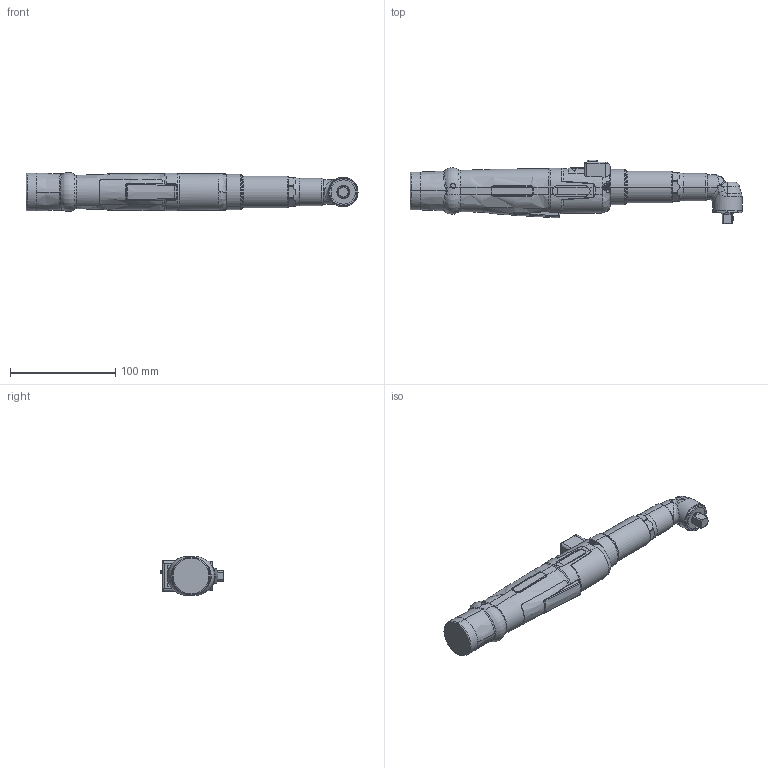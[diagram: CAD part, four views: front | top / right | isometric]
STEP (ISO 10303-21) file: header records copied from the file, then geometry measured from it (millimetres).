
FILE_DESCRIPTION (( 'STEP AP203' ), '1' );
FILE_NAME ('70141265_HSXK1024WV38.STEP', '2026-03-13T08:47:14', ( '' ), ( '' ), 'SwSTEP 2.0', 'SolidWorks 2020', '' );
FILE_SCHEMA (( 'CONFIG_CONTROL_DESIGN' ));
Length unit declared in the file: millimetre
Products named in the file (5): 70141223; 70141213; 70141121; 70141200; 70141265_HSXK1024WV38
Assembly tree (4 placements, depth 2):
  70141265_HSXK1024WV38
    70141200
    70141213
    70141121
    70141223
Bounding box: 315.2 x 60.6 x 37 mm (x, y, z)
Volume: 307116.3 mm3; surface area: 58696.3 mm2
Topology: 5 solids, 6 shells, 1278 faces, 3278 edges, 2036 vertices
Faces by surface type: cylinder 395, bspline 318, plane 318, torus 113, cone 101, sphere 33
Entity records: 59010 total; most frequent: CARTESIAN_POINT 30198, ORIENTED_EDGE 6496, DIRECTION 5202, EDGE_CURVE 3248, AXIS2_PLACEMENT_3D 2113, VERTEX_POINT 2034, EDGE_LOOP 1334, FACE_OUTER_BOUND 1278
